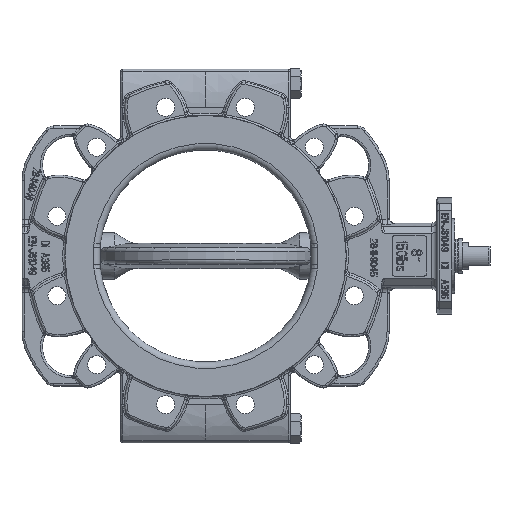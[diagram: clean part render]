
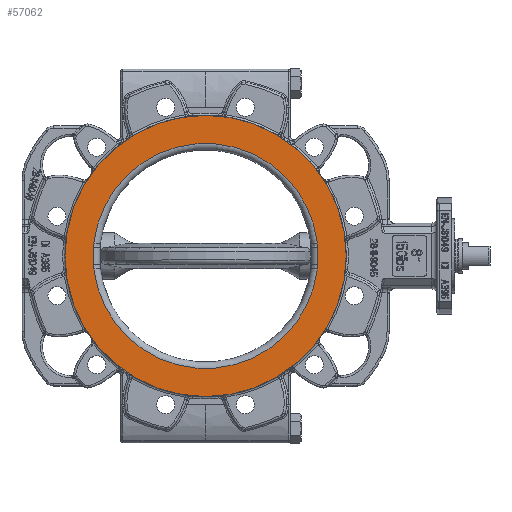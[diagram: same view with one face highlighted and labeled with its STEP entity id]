
A CAD part, top view. The second image highlights one B-rep face of the part: STEP entity #57062.
In plain terms, the highlighted planar face has unit normal (0, 0, 1).
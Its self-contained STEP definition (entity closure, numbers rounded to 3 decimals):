
#3062=CARTESIAN_POINT('',(0.,0.,30.));
#3063=DIRECTION('',(0.,0.,-1.));
#3064=DIRECTION('',(0.,-1.,0.));
#3065=AXIS2_PLACEMENT_3D('',#3062,#3063,#3064);
#3083=CARTESIAN_POINT('',(0.,0.,30.));
#3084=DIRECTION('',(0.,0.,1.));
#3085=DIRECTION('',(0.,-1.,0.));
#3086=AXIS2_PLACEMENT_3D('',#3083,#3084,#3085);
#3484=CARTESIAN_POINT('',(-105.289,-12.26,
30.));
#3485=CARTESIAN_POINT('',(-105.338,-11.833,
30.));
#3486=CARTESIAN_POINT('',(-105.422,-10.951,
30.));
#3487=CARTESIAN_POINT('',(-105.498,-9.542,
30.));
#3488=CARTESIAN_POINT('',(-105.514,-8.546,
30.));
#3489=CARTESIAN_POINT('',(-105.514,-8.034,
30.));
#3503=CARTESIAN_POINT('',(0.,0.,30.));
#3504=DIRECTION('',(0.,0.,-1.));
#3505=DIRECTION('',(0.993,-0.116,0.));
#3506=AXIS2_PLACEMENT_3D('',#3503,#3504,#3505);
#3513=CARTESIAN_POINT('',(105.289,-12.26,30.));
#3514=CARTESIAN_POINT('',(105.338,-11.833,30.));
#3515=CARTESIAN_POINT('',(105.422,-10.951,30.));
#3516=CARTESIAN_POINT('',(105.498,-9.542,30.));
#3517=CARTESIAN_POINT('',(105.514,-8.546,30.));
#3518=CARTESIAN_POINT('',(105.514,-8.034,30.));
#3608=CARTESIAN_POINT('',(105.514,8.034,30.));
#3609=CARTESIAN_POINT('',(105.514,8.532,30.));
#3610=CARTESIAN_POINT('',(105.499,9.508,30.));
#3611=CARTESIAN_POINT('',(105.425,10.917,30.));
#3612=CARTESIAN_POINT('',(105.34,11.819,30.));
#3613=CARTESIAN_POINT('',(105.289,12.26,30.));
#3627=DIRECTION('',(0.,1.,0.));
#3628=VECTOR('',#3627,16.069);
#3629=CARTESIAN_POINT('',(105.514,-8.034,30.));
#3630=LINE('',#3629,#3628);
#3650=CARTESIAN_POINT('',(0.,0.,30.));
#3651=DIRECTION('',(0.,0.,-1.));
#3652=DIRECTION('',(-0.993,0.116,0.));
#3653=AXIS2_PLACEMENT_3D('',#3650,#3651,#3652);
#3660=CARTESIAN_POINT('',(-105.514,8.034,30.));
#3661=CARTESIAN_POINT('',(-105.514,8.532,30.));
#3662=CARTESIAN_POINT('',(-105.499,9.508,30.));
#3663=CARTESIAN_POINT('',(-105.425,10.917,30.));
#3664=CARTESIAN_POINT('',(-105.34,11.819,30.));
#3665=CARTESIAN_POINT('',(-105.289,12.26,30.));
#3731=DIRECTION('',(0.,1.,0.));
#3732=VECTOR('',#3731,16.069);
#3733=CARTESIAN_POINT('',(-105.514,-8.034,
30.));
#3734=LINE('',#3733,#3732);
#53162=CARTESIAN_POINT('',(0.,-132.5,30.));
#53163=CARTESIAN_POINT('',(0.,132.5,30.));
#53164=VERTEX_POINT('',#53162);
#53165=VERTEX_POINT('',#53163);
#53170=VERTEX_POINT('',#3484);
#53171=VERTEX_POINT('',#3489);
#53174=CARTESIAN_POINT('',(-105.514,8.034,
30.));
#53175=VERTEX_POINT('',#53174);
#53178=VERTEX_POINT('',#3665);
#53190=VERTEX_POINT('',#3513);
#53191=VERTEX_POINT('',#3518);
#53194=CARTESIAN_POINT('',(105.514,8.034,30.));
#53195=VERTEX_POINT('',#53194);
#53198=VERTEX_POINT('',#3613);
#57036=CARTESIAN_POINT('',(0.,0.,30.));
#57037=DIRECTION('',(0.,0.,-1.));
#57038=DIRECTION('',(0.,-1.,0.));
#57039=AXIS2_PLACEMENT_3D('',#57036,#57037,#57038);
#57040=PLANE('',#57039);
#57041=ORIENTED_EDGE('',*,*,#56113,.T.);
#57042=ORIENTED_EDGE('',*,*,#56263,.F.);
#57043=EDGE_LOOP('',(#57041,#57042));
#57044=FACE_OUTER_BOUND('',#57043,.F.);
#57046=ORIENTED_EDGE('',*,*,#57045,.F.);
#57048=ORIENTED_EDGE('',*,*,#57047,.T.);
#57050=ORIENTED_EDGE('',*,*,#57049,.T.);
#57052=ORIENTED_EDGE('',*,*,#57051,.T.);
#57054=ORIENTED_EDGE('',*,*,#57053,.F.);
#57056=ORIENTED_EDGE('',*,*,#57055,.F.);
#57058=ORIENTED_EDGE('',*,*,#57057,.F.);
#57059=ORIENTED_EDGE('',*,*,#57026,.F.);
#57060=EDGE_LOOP('',(#57046,#57048,#57050,#57052,#57054,#57056,#57058,#57059));
#57061=FACE_BOUND('',#57060,.F.);
#57062=ADVANCED_FACE('',(#57044,#57061),#57040,.F.);
#3066=CIRCLE('',#3065,132.5);
#3087=CIRCLE('',#3086,132.5);
#3490=B_SPLINE_CURVE_WITH_KNOTS('',3,(#3484,#3485,#3486,#3487,#3488,#3489),
.UNSPECIFIED.,.F.,.F.,(4,1,1,4),(0.,0.333,0.667,1.),
.UNSPECIFIED.);
#3507=CIRCLE('',#3506,106.);
#3519=B_SPLINE_CURVE_WITH_KNOTS('',3,(#3513,#3514,#3515,#3516,#3517,#3518),
.UNSPECIFIED.,.F.,.F.,(4,1,1,4),(0.,0.333,0.667,1.),
.UNSPECIFIED.);
#3614=B_SPLINE_CURVE_WITH_KNOTS('',3,(#3608,#3609,#3610,#3611,#3612,#3613),
.UNSPECIFIED.,.F.,.F.,(4,1,1,4),(0.,0.333,0.667,1.),
.UNSPECIFIED.);
#3654=CIRCLE('',#3653,106.);
#3666=B_SPLINE_CURVE_WITH_KNOTS('',3,(#3660,#3661,#3662,#3663,#3664,#3665),
.UNSPECIFIED.,.F.,.F.,(4,1,1,4),(0.,0.333,0.667,1.),
.UNSPECIFIED.);
#56113=EDGE_CURVE('',#53164,#53165,#3066,.T.);
#56263=EDGE_CURVE('',#53164,#53165,#3087,.T.);
#57026=EDGE_CURVE('',#53170,#53171,#3490,.T.);
#57045=EDGE_CURVE('',#53190,#53170,#3507,.T.);
#57047=EDGE_CURVE('',#53190,#53191,#3519,.T.);
#57049=EDGE_CURVE('',#53191,#53195,#3630,.T.);
#57051=EDGE_CURVE('',#53195,#53198,#3614,.T.);
#57053=EDGE_CURVE('',#53178,#53198,#3654,.T.);
#57055=EDGE_CURVE('',#53175,#53178,#3666,.T.);
#57057=EDGE_CURVE('',#53171,#53175,#3734,.T.);
